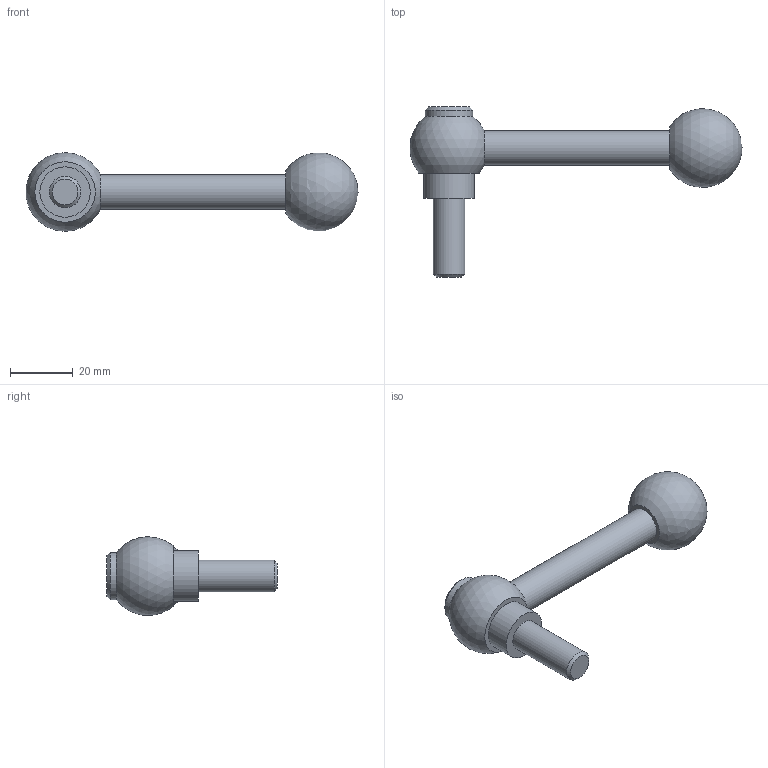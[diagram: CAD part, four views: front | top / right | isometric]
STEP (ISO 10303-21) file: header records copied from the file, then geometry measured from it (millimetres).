
FILE_DESCRIPTION( ( 'STEP AP203' ), '1' );
FILE_NAME( 'C:/Temp/Ganter_Step_05_03_2020/data/2_1/gn_6337_3/gn_6337_3_ms/gn_6337_3_ms_m/Adjustable clamping lever with bolt GN 6337.3-25-M10-25-M.stp', '2020-03-05T11:41:14', ( 'License CC BY-ND 4.0' ), ( 'CADENAS' ), ' ', 'PARTsolutions', ' ' );
FILE_SCHEMA( ( 'CONFIG_CONTROL_DESIGN' ) );
Length unit declared in the file: millimetre
Products named in the file (1): _Adjustable clamping lever with bolt GN 6337.3-25-M10-25-M
Bounding box: 105.41 x 54 x 24.99 mm (x, y, z)
Volume: 24875.9 mm3; surface area: 6949.1 mm2
Topology: 1 solids, 1 shells, 13 faces, 23 edges, 15 vertices
Faces by surface type: plane 5, cylinder 4, cone 2, sphere 2
Full cylindrical faces by diameter (mm): 10 x1, 11 x1, 15 x1, 16 x1
Entity records: 302 total; most frequent: DIRECTION 52, CARTESIAN_POINT 39, AXIS2_PLACEMENT_3D 26, EDGE_LOOP 24, ORIENTED_EDGE 24, FACE_OUTER_BOUND 18, ADVANCED_FACE 13, VERTEX_POINT 13
